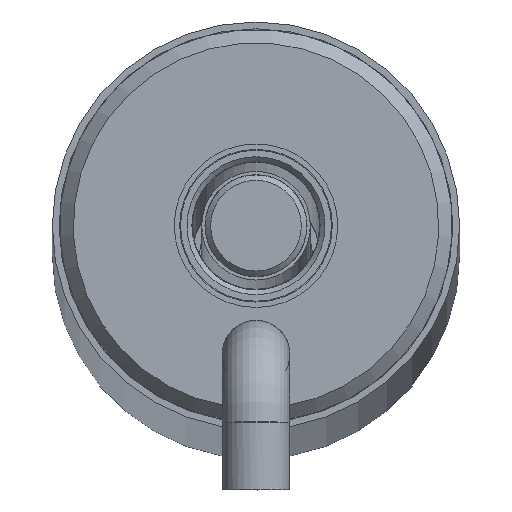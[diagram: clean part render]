
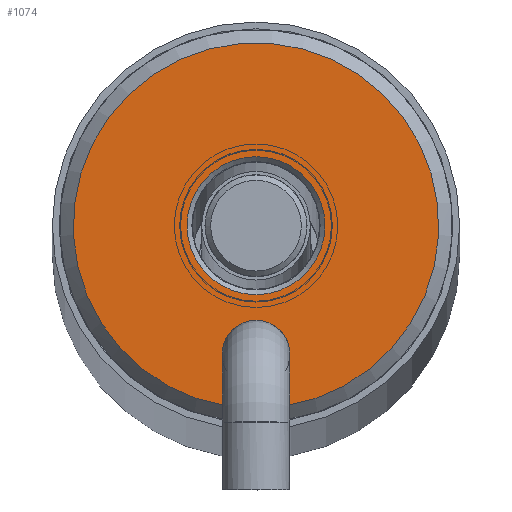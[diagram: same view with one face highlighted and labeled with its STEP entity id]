
A CAD part, top view. The second image highlights one B-rep face of the part: STEP entity #1074.
In plain terms, the highlighted planar face has unit normal (0, 0, 1).
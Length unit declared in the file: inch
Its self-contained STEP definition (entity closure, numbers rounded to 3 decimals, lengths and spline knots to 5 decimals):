
#78=FACE_BOUND('',#214,.T.);
#116=PLANE('',#1254);
#145=FACE_OUTER_BOUND('',#213,.T.);
#213=EDGE_LOOP('',(#719,#720,#721,#722,#723));
#214=EDGE_LOOP('',(#724));
#294=LINE('',#1700,#344);
#297=LINE('',#1710,#347);
#344=VECTOR('',#1401,0.3937);
#347=VECTOR('',#1406,0.3937);
#396=CIRCLE('',#1249,0.0625);
#398=CIRCLE('',#1251,0.0625);
#399=CIRCLE('',#1255,0.3365);
#400=CIRCLE('',#1256,0.127);
#448=VERTEX_POINT('',#1686);
#449=VERTEX_POINT('',#1688);
#452=VERTEX_POINT('',#1694);
#453=VERTEX_POINT('',#1699);
#456=VERTEX_POINT('',#1709);
#457=VERTEX_POINT('',#1712);
#550=EDGE_CURVE('',#449,#448,#396,.T.);
#554=EDGE_CURVE('',#448,#452,#398,.T.);
#555=EDGE_CURVE('',#453,#449,#294,.T.);
#559=EDGE_CURVE('',#452,#456,#297,.T.);
#560=EDGE_CURVE('',#453,#456,#399,.T.);
#561=EDGE_CURVE('',#457,#457,#400,.T.);
#719=ORIENTED_EDGE('',*,*,#550,.T.);
#720=ORIENTED_EDGE('',*,*,#554,.T.);
#721=ORIENTED_EDGE('',*,*,#559,.T.);
#722=ORIENTED_EDGE('',*,*,#560,.F.);
#723=ORIENTED_EDGE('',*,*,#555,.T.);
#724=ORIENTED_EDGE('',*,*,#561,.T.);
#1074=ADVANCED_FACE('',(#145,#78),#116,.T.);
#1249=AXIS2_PLACEMENT_3D('',#1689,#1389,#1390);
#1251=AXIS2_PLACEMENT_3D('',#1696,#1395,#1396);
#1254=AXIS2_PLACEMENT_3D('',#1708,#1404,#1405);
#1255=AXIS2_PLACEMENT_3D('',#1711,#1407,#1408);
#1256=AXIS2_PLACEMENT_3D('',#1713,#1409,#1410);
#1389=DIRECTION('center_axis',(0.,0.,
-1.));
#1390=DIRECTION('ref_axis',(1.,0.,0.));
#1395=DIRECTION('center_axis',(0.,0.,
-1.));
#1396=DIRECTION('ref_axis',(1.,0.,0.));
#1401=DIRECTION('',(0.,1.,0.));
#1404=DIRECTION('center_axis',(0.,0.,
1.));
#1405=DIRECTION('ref_axis',(1.,0.,0.));
#1406=DIRECTION('',(0.,-1.,0.));
#1407=DIRECTION('center_axis',(0.,0.,
-1.));
#1408=DIRECTION('ref_axis',(-1.,0.,0.));
#1409=DIRECTION('center_axis',(0.,0.,
-1.));
#1410=DIRECTION('ref_axis',(-1.,0.,0.));
#1686=CARTESIAN_POINT('',(-0.0625,-0.237,30.99));
#1688=CARTESIAN_POINT('',(-0.053,-0.27012,30.99));
#1689=CARTESIAN_POINT('Origin',(0.,-0.237,30.99));
#1694=CARTESIAN_POINT('',(0.053,-0.27012,30.99));
#1696=CARTESIAN_POINT('Origin',(0.,-0.237,30.99));
#1699=CARTESIAN_POINT('',(-0.053,-0.3323,30.99));
#1700=CARTESIAN_POINT('',(-0.053,0.04975,30.99));
#1708=CARTESIAN_POINT('Origin',(0.,0.3365,30.99));
#1709=CARTESIAN_POINT('',(0.053,-0.3323,30.99));
#1710=CARTESIAN_POINT('',(0.053,-0.01055,30.99));
#1711=CARTESIAN_POINT('Origin',(0.,0.,
30.99));
#1712=CARTESIAN_POINT('',(0.,-0.127,30.99));
#1713=CARTESIAN_POINT('Origin',(0.,0.,
30.99));
